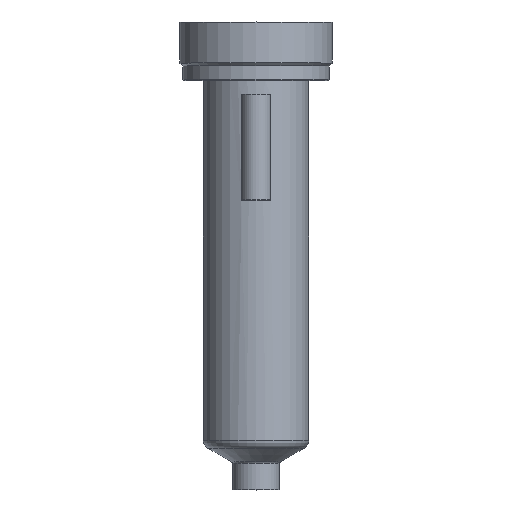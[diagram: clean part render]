
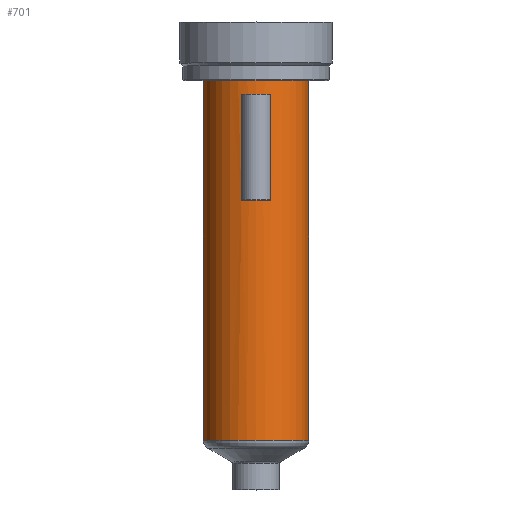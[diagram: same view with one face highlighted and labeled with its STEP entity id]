
A CAD part, top view. The second image highlights one B-rep face of the part: STEP entity #701.
In plain terms, the highlighted cylindrical face has radius 9 mm (diameter 18 mm), a partial arc.
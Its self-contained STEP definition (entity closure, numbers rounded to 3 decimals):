
#193=DIRECTION('',(0.,-1.,0.));
#194=VECTOR('',#193,61.544);
#195=CARTESIAN_POINT('',(9.,0.,0.));
#196=LINE('',#195,#194);
#197=CARTESIAN_POINT('',(0.,-61.544,0.));
#198=DIRECTION('',(0.,1.,0.));
#199=DIRECTION('',(-1.,0.,0.));
#200=AXIS2_PLACEMENT_3D('',#197,#198,#199);
#202=DIRECTION('',(0.,1.,0.));
#203=VECTOR('',#202,61.544);
#204=CARTESIAN_POINT('',(-9.,-61.544,0.));
#205=LINE('',#204,#203);
#206=CARTESIAN_POINT('',(0.,0.,0.));
#207=DIRECTION('',(0.,1.,0.));
#208=DIRECTION('',(-1.,0.,0.));
#209=AXIS2_PLACEMENT_3D('',#206,#207,#208);
#211=DIRECTION('',(0.,-1.,0.));
#212=VECTOR('',#211,18.);
#213=CARTESIAN_POINT('',(-2.5,-2.5,8.646));
#214=LINE('',#213,#212);
#215=DIRECTION('',(0.,1.,0.));
#216=VECTOR('',#215,18.);
#217=CARTESIAN_POINT('',(2.5,-20.5,8.646));
#218=LINE('',#217,#216);
#299=CARTESIAN_POINT('',(0.,-2.5,0.));
#300=DIRECTION('',(0.,-1.,0.));
#301=DIRECTION('',(0.278,0.,0.961));
#302=AXIS2_PLACEMENT_3D('',#299,#300,#301);
#317=CARTESIAN_POINT('',(0.,-20.5,0.));
#318=DIRECTION('',(0.,1.,0.));
#319=DIRECTION('',(-0.278,0.,0.961));
#320=AXIS2_PLACEMENT_3D('',#317,#318,#319);
#396=CARTESIAN_POINT('',(-9.,0.,0.));
#397=CARTESIAN_POINT('',(9.,0.,0.));
#398=VERTEX_POINT('',#396);
#399=VERTEX_POINT('',#397);
#408=CARTESIAN_POINT('',(-2.5,-2.5,8.646));
#409=VERTEX_POINT('',#408);
#410=CARTESIAN_POINT('',(2.5,-2.5,8.646));
#411=VERTEX_POINT('',#410);
#448=CARTESIAN_POINT('',(9.,-61.544,0.));
#449=VERTEX_POINT('',#448);
#458=CARTESIAN_POINT('',(-9.,-61.544,0.));
#459=VERTEX_POINT('',#458);
#460=CARTESIAN_POINT('',(-2.5,-20.5,8.646));
#461=CARTESIAN_POINT('',(2.5,-20.5,8.646));
#462=VERTEX_POINT('',#460);
#463=VERTEX_POINT('',#461);
#679=CARTESIAN_POINT('',(0.,11.15,0.));
#680=DIRECTION('',(0.,-1.,0.));
#681=DIRECTION('',(-1.,0.,0.));
#682=AXIS2_PLACEMENT_3D('',#679,#680,#681);
#683=CYLINDRICAL_SURFACE('',#682,9.);
#684=ORIENTED_EDGE('',*,*,#673,.T.);
#686=ORIENTED_EDGE('',*,*,#685,.F.);
#687=ORIENTED_EDGE('',*,*,#669,.T.);
#688=ORIENTED_EDGE('',*,*,#659,.T.);
#689=EDGE_LOOP('',(#684,#686,#687,#688));
#690=FACE_OUTER_BOUND('',#689,.F.);
#692=ORIENTED_EDGE('',*,*,#691,.T.);
#694=ORIENTED_EDGE('',*,*,#693,.T.);
#696=ORIENTED_EDGE('',*,*,#695,.T.);
#698=ORIENTED_EDGE('',*,*,#697,.T.);
#699=EDGE_LOOP('',(#692,#694,#696,#698));
#700=FACE_BOUND('',#699,.F.);
#701=ADVANCED_FACE('',(#690,#700),#683,.T.);
#201=CIRCLE('',#200,9.);
#210=CIRCLE('',#209,9.);
#303=CIRCLE('',#302,9.);
#321=CIRCLE('',#320,9.);
#659=EDGE_CURVE('',#398,#399,#210,.T.);
#669=EDGE_CURVE('',#459,#398,#205,.T.);
#673=EDGE_CURVE('',#399,#449,#196,.T.);
#685=EDGE_CURVE('',#459,#449,#201,.T.);
#691=EDGE_CURVE('',#409,#462,#214,.T.);
#693=EDGE_CURVE('',#462,#463,#321,.T.);
#695=EDGE_CURVE('',#463,#411,#218,.T.);
#697=EDGE_CURVE('',#411,#409,#303,.T.);
